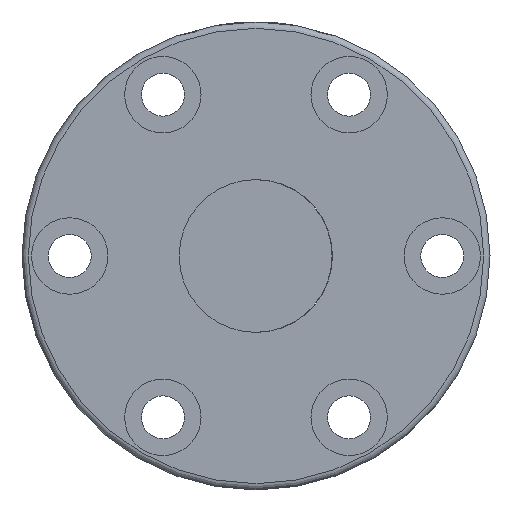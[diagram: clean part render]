
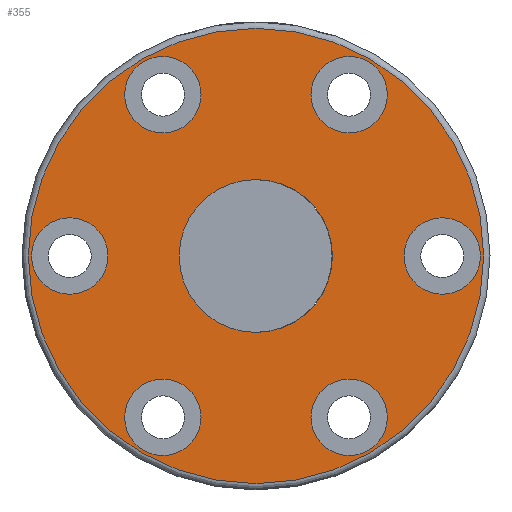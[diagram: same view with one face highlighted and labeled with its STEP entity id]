
A CAD part, front view. The second image highlights one B-rep face of the part: STEP entity #355.
In plain terms, the highlighted planar face has unit normal (0, -1, 0).
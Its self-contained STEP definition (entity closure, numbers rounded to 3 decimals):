
#11 = EDGE_LOOP ( 'NONE', ( #517 ) ) ;
#19 = FACE_BOUND ( 'NONE', #153, .T. ) ;
#34 = VERTEX_POINT ( 'NONE', #698 ) ;
#43 = CIRCLE ( 'NONE', #815, 4. ) ;
#69 = VERTEX_POINT ( 'NONE', #593 ) ;
#76 = FACE_BOUND ( 'NONE', #212, .T. ) ;
#84 = AXIS2_PLACEMENT_3D ( 'NONE', #459, #536, #400 ) ;
#104 = FACE_BOUND ( 'NONE', #11, .T. ) ;
#106 = VERTEX_POINT ( 'NONE', #690 ) ;
#115 = EDGE_CURVE ( 'NONE', #485, #485, #655, .T. ) ;
#141 = VERTEX_POINT ( 'NONE', #720 ) ;
#153 = EDGE_LOOP ( 'NONE', ( #890 ) ) ;
#155 = EDGE_LOOP ( 'NONE', ( #652 ) ) ;
#158 = DIRECTION ( 'NONE',  ( 0., 1., 0. ) ) ;
#165 = DIRECTION ( 'NONE',  ( 0., 0., 1. ) ) ;
#173 = CARTESIAN_POINT ( 'NONE',  ( -9.711, -22.461, 16.887 ) ) ;
#174 = AXIS2_PLACEMENT_3D ( 'NONE', #565, #688, #774 ) ;
#175 = CARTESIAN_POINT ( 'NONE',  ( 0.039, -22.461, 23.833 ) ) ;
#178 = ORIENTED_EDGE ( 'NONE', *, *, #290, .T. ) ;
#212 = EDGE_LOOP ( 'NONE', ( #178 ) ) ;
#220 = EDGE_CURVE ( 'NONE', #34, #34, #462, .T. ) ;
#222 = ORIENTED_EDGE ( 'NONE', *, *, #359, .T. ) ;
#233 = FACE_BOUND ( 'NONE', #822, .T. ) ;
#250 = DIRECTION ( 'NONE',  ( 0., 1., 0. ) ) ;
#255 = AXIS2_PLACEMENT_3D ( 'NONE', #528, #312, #732 ) ;
#258 = AXIS2_PLACEMENT_3D ( 'NONE', #680, #298, #165 ) ;
#279 = AXIS2_PLACEMENT_3D ( 'NONE', #703, #342, #850 ) ;
#290 = EDGE_CURVE ( 'NONE', #917, #917, #43, .T. ) ;
#298 = DIRECTION ( 'NONE',  ( 0., 1., 0. ) ) ;
#312 = DIRECTION ( 'NONE',  ( 0., 1., 0. ) ) ;
#315 = FACE_BOUND ( 'NONE', #656, .T. ) ;
#335 = CIRCLE ( 'NONE', #648, 8. ) ;
#336 = CARTESIAN_POINT ( 'NONE',  ( -9.711, -22.461, 20.887 ) ) ;
#342 = DIRECTION ( 'NONE',  ( 0., 1., 0. ) ) ;
#355 = ADVANCED_FACE ( 'NONE', ( #809, #19, #315, #76, #104, #384, #233, #465 ), #516, .F. ) ;
#357 = ORIENTED_EDGE ( 'NONE', *, *, #804, .T. ) ;
#359 = EDGE_CURVE ( 'NONE', #106, #106, #335, .T. ) ;
#384 = FACE_BOUND ( 'NONE', #875, .T. ) ;
#399 = CARTESIAN_POINT ( 'NONE',  ( 9.789, -22.461, 20.887 ) ) ;
#400 = DIRECTION ( 'NONE',  ( 0., 0., 1. ) ) ;
#443 = CIRCLE ( 'NONE', #279, 4. ) ;
#449 = DIRECTION ( 'NONE',  ( 0., 0., 1. ) ) ;
#459 = CARTESIAN_POINT ( 'NONE',  ( 9.789, -22.461, 16.887 ) ) ;
#462 = CIRCLE ( 'NONE', #258, 4. ) ;
#465 = FACE_OUTER_BOUND ( 'NONE', #155, .T. ) ;
#483 = EDGE_CURVE ( 'NONE', #551, #551, #491, .T. ) ;
#485 = VERTEX_POINT ( 'NONE', #175 ) ;
#491 = CIRCLE ( 'NONE', #617, 4. ) ;
#516 = PLANE ( 'NONE',  #912 ) ;
#517 = ORIENTED_EDGE ( 'NONE', *, *, #220, .T. ) ;
#528 = CARTESIAN_POINT ( 'NONE',  ( 19.539, -22.461, 0. ) ) ;
#536 = DIRECTION ( 'NONE',  ( 0., 1., 0. ) ) ;
#539 = EDGE_CURVE ( 'NONE', #760, #760, #580, .T. ) ;
#551 = VERTEX_POINT ( 'NONE', #336 ) ;
#565 = CARTESIAN_POINT ( 'NONE',  ( 0.039, -22.461, 0. ) ) ;
#580 = CIRCLE ( 'NONE', #84, 4. ) ;
#590 = ORIENTED_EDGE ( 'NONE', *, *, #539, .T. ) ;
#593 = CARTESIAN_POINT ( 'NONE',  ( 19.539, -22.461, 4. ) ) ;
#606 = DIRECTION ( 'NONE',  ( 0., 1., 0. ) ) ;
#617 = AXIS2_PLACEMENT_3D ( 'NONE', #173, #158, #449 ) ;
#628 = CIRCLE ( 'NONE', #255, 4. ) ;
#648 = AXIS2_PLACEMENT_3D ( 'NONE', #727, #250, #870 ) ;
#652 = ORIENTED_EDGE ( 'NONE', *, *, #115, .T. ) ;
#655 = CIRCLE ( 'NONE', #174, 23.833 ) ;
#656 = EDGE_LOOP ( 'NONE', ( #590 ) ) ;
#673 = CARTESIAN_POINT ( 'NONE',  ( 0.039, -22.461, 0. ) ) ;
#680 = CARTESIAN_POINT ( 'NONE',  ( 9.789, -22.461, -16.887 ) ) ;
#688 = DIRECTION ( 'NONE',  ( 0., -1., 0. ) ) ;
#690 = CARTESIAN_POINT ( 'NONE',  ( -7.961, -22.461, 0. ) ) ;
#698 = CARTESIAN_POINT ( 'NONE',  ( 9.789, -22.461, -12.887 ) ) ;
#703 = CARTESIAN_POINT ( 'NONE',  ( -19.461, -22.461, 0. ) ) ;
#717 = ORIENTED_EDGE ( 'NONE', *, *, #864, .T. ) ;
#720 = CARTESIAN_POINT ( 'NONE',  ( -19.461, -22.461, 4. ) ) ;
#727 = CARTESIAN_POINT ( 'NONE',  ( 0.039, -22.461, 0. ) ) ;
#732 = DIRECTION ( 'NONE',  ( 0., 0., 1. ) ) ;
#746 = DIRECTION ( 'NONE',  ( 0., 0., 1. ) ) ;
#760 = VERTEX_POINT ( 'NONE', #399 ) ;
#769 = CARTESIAN_POINT ( 'NONE',  ( -9.711, -22.461, -12.887 ) ) ;
#774 = DIRECTION ( 'NONE',  ( 0., 0., 1. ) ) ;
#782 = EDGE_LOOP ( 'NONE', ( #222 ) ) ;
#801 = DIRECTION ( 'NONE',  ( 1., 0., 0. ) ) ;
#804 = EDGE_CURVE ( 'NONE', #141, #141, #443, .T. ) ;
#809 = FACE_BOUND ( 'NONE', #782, .T. ) ;
#815 = AXIS2_PLACEMENT_3D ( 'NONE', #867, #606, #746 ) ;
#817 = DIRECTION ( 'NONE',  ( 0., 1., 0. ) ) ;
#822 = EDGE_LOOP ( 'NONE', ( #717 ) ) ;
#850 = DIRECTION ( 'NONE',  ( 0., 0., 1. ) ) ;
#864 = EDGE_CURVE ( 'NONE', #69, #69, #628, .T. ) ;
#867 = CARTESIAN_POINT ( 'NONE',  ( -9.711, -22.461, -16.887 ) ) ;
#870 = DIRECTION ( 'NONE',  ( -1., 0., 0. ) ) ;
#875 = EDGE_LOOP ( 'NONE', ( #357 ) ) ;
#890 = ORIENTED_EDGE ( 'NONE', *, *, #483, .T. ) ;
#912 = AXIS2_PLACEMENT_3D ( 'NONE', #673, #817, #801 ) ;
#917 = VERTEX_POINT ( 'NONE', #769 ) ;
